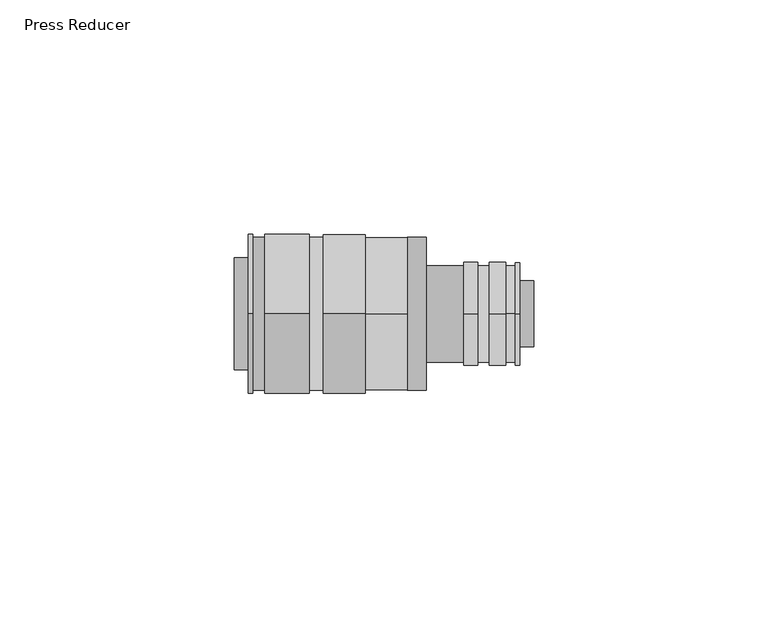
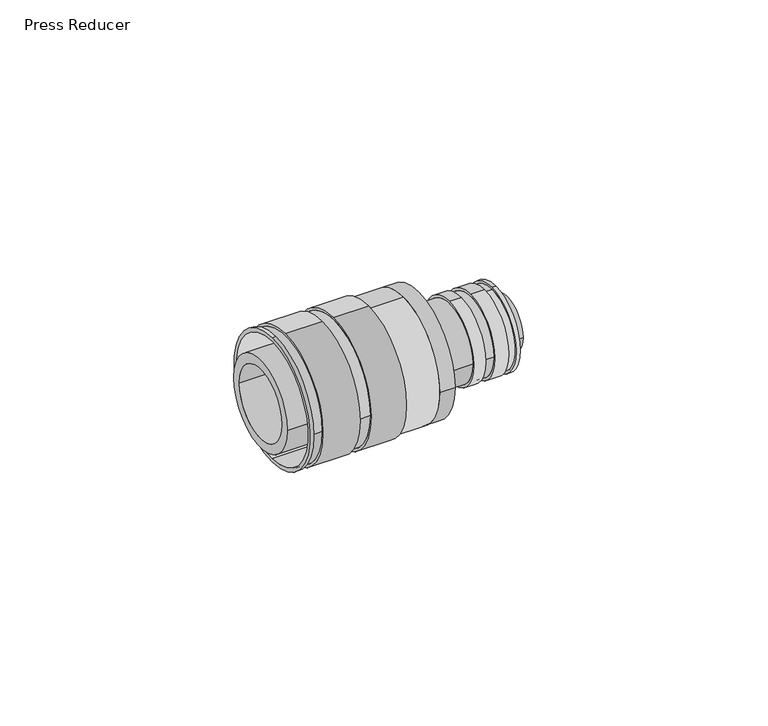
"""IFC4 building model written with IfcOpenShell, lengths in millimetres: pipe fitting geometry, Press Reducer : Superpipe Press Reducer."""

from ifc_helpers import new_model, si_unit, point, frame, frame_2d, origin, place, context, project, spatial, polyline, circle_curve, trimmed, segment, composite_curve, outline, extrude, source, transform, mapped, element, save
from ifc_brep_helpers import plane_surface, cylinder_surface, revolved_surface, advanced_brep


def press_reducer_061486a4(model_context):
    return source(origin(), model_context, "Body", "SolidModel", [
        advanced_brep(
        [(3.0, 0.0, -17.0), (3.0, 0.0, 17.0), (3.0, 0.0, -16.0), (3.0, 0.0, 16.0), (37.0, 0.0, -16.3), (37.0, 0.0, 16.3), (37.0, 0.0, -16.0), (37.0, 0.0, 16.0), (4.0, 0.0, -17.0), (4.0, -17.0, 0.0), (4.0, 0.0, 17.0), (28.0, 0.0, -17.0), (28.0, 0.0, 17.0), (19.0, 0.0, 17.0), (19.0, -17.0, 0.0), (19.0, 0.0, -17.0), (16.0, 0.0, -17.0), (16.0, -17.0, 0.0), (16.0, 0.0, 17.0), (6.5, 0.0, 17.0), (6.5, -17.0, 0.0), (6.5, 0.0, -17.0), (4.0, 17.0, 0.0), (19.0, 17.0, 0.0), (16.0, 17.0, 0.0), (6.5, 17.0, 0.0), (28.0, 0.0, -16.3), (28.0, 0.0, 16.3), (16.0, 16.3, 0.0), (16.0, -16.3, 0.0), (19.0, 16.3, 0.0), (19.0, -16.3, 0.0), (6.5, -16.3, 0.0), (6.5, 16.3, 0.0), (4.0, -16.3, 0.0), (4.0, 16.3, 0.0)],
        [
            (0, 1, circle_curve(frame((3.0, 0.0, 0.0), z_axis=(-1.0, 0.0, 0.0), x_axis=(0.0, 0.0, 1.0)), 17.0)),
            (1, 0, circle_curve(frame((3.0, 0.0, 0.0), z_axis=(-1.0, 0.0, 0.0), x_axis=(0.0, 0.0, 1.0)), 17.0)),
            (2, 3, circle_curve(frame((3.0, 0.0, 0.0), z_axis=(1.0, 0.0, 0.0), x_axis=(0.0, 0.0, 1.0)), 16.0)),
            (3, 2, circle_curve(frame((3.0, 0.0, 0.0), z_axis=(1.0, 0.0, 0.0), x_axis=(0.0, 0.0, 1.0)), 16.0)),
            (4, 5, circle_curve(frame((37.0, 0.0, 0.0), z_axis=(1.0, 0.0, 0.0), x_axis=(0.0, 0.0, 1.0)), 16.3)),
            (5, 4, circle_curve(frame((37.0, 0.0, 0.0), z_axis=(1.0, 0.0, 0.0), x_axis=(0.0, 0.0, 1.0)), 16.3)),
            (6, 7, circle_curve(frame((37.0, 0.0, 0.0), z_axis=(-1.0, 0.0, 0.0), x_axis=(0.0, 0.0, 1.0)), 16.0)),
            (7, 6, circle_curve(frame((37.0, 0.0, 0.0), z_axis=(-1.0, 0.0, 0.0), x_axis=(0.0, 0.0, 1.0)), 16.0)),
            (0, 8),
            (8, 9, circle_curve(frame((4.0, 0.0, 0.0), z_axis=(-1.0, 0.0, 0.0), x_axis=(0.0, 0.0, 1.0)), 17.0)),
            (9, 10, circle_curve(frame((4.0, 0.0, 0.0), z_axis=(-1.0, 0.0, 0.0), x_axis=(0.0, 0.0, 1.0)), 17.0)),
            (10, 1),
            (11, 12, circle_curve(frame((28.0, 0.0, 0.0), z_axis=(-1.0, 0.0, 0.0), x_axis=(0.0, 0.0, 1.0)), 17.0)),
            (12, 13),
            (13, 14, circle_curve(frame((19.0, 0.0, 0.0), z_axis=(1.0, 0.0, 0.0), x_axis=(0.0, 0.0, 1.0)), 17.0)),
            (14, 15, circle_curve(frame((19.0, 0.0, 0.0), z_axis=(1.0, 0.0, 0.0), x_axis=(0.0, 0.0, 1.0)), 17.0)),
            (15, 11),
            (16, 17, circle_curve(frame((16.0, 0.0, 0.0), z_axis=(-1.0, 0.0, 0.0), x_axis=(0.0, 0.0, 1.0)), 17.0)),
            (17, 18, circle_curve(frame((16.0, 0.0, 0.0), z_axis=(-1.0, 0.0, 0.0), x_axis=(0.0, 0.0, 1.0)), 17.0)),
            (18, 19),
            (19, 20, circle_curve(frame((6.5, 0.0, 0.0), z_axis=(1.0, 0.0, 0.0), x_axis=(0.0, 0.0, 1.0)), 17.0)),
            (20, 21, circle_curve(frame((6.5, 0.0, 0.0), z_axis=(1.0, 0.0, 0.0), x_axis=(0.0, 0.0, 1.0)), 17.0)),
            (21, 16),
            (10, 22, circle_curve(frame((4.0, 0.0, 0.0), z_axis=(-1.0, 0.0, 0.0), x_axis=(0.0, 0.0, 1.0)), 17.0)),
            (22, 8, circle_curve(frame((4.0, 0.0, 0.0), z_axis=(-1.0, 0.0, 0.0), x_axis=(0.0, 0.0, 1.0)), 17.0)),
            (12, 11, circle_curve(frame((28.0, 0.0, 0.0), z_axis=(-1.0, 0.0, 0.0), x_axis=(0.0, 0.0, 1.0)), 17.0)),
            (15, 23, circle_curve(frame((19.0, 0.0, 0.0), z_axis=(1.0, 0.0, 0.0), x_axis=(0.0, 0.0, 1.0)), 17.0)),
            (23, 13, circle_curve(frame((19.0, 0.0, 0.0), z_axis=(1.0, 0.0, 0.0), x_axis=(0.0, 0.0, 1.0)), 17.0)),
            (24, 16, circle_curve(frame((16.0, 0.0, 0.0), z_axis=(-1.0, 0.0, 0.0), x_axis=(0.0, 0.0, 1.0)), 17.0)),
            (21, 25, circle_curve(frame((6.5, 0.0, 0.0), z_axis=(1.0, 0.0, 0.0), x_axis=(0.0, 0.0, 1.0)), 17.0)),
            (25, 19, circle_curve(frame((6.5, 0.0, 0.0), z_axis=(1.0, 0.0, 0.0), x_axis=(0.0, 0.0, 1.0)), 17.0)),
            (18, 24, circle_curve(frame((16.0, 0.0, 0.0), z_axis=(-1.0, 0.0, 0.0), x_axis=(0.0, 0.0, 1.0)), 17.0)),
            (2, 6),
            (7, 3),
            (26, 27, circle_curve(frame((28.0, 0.0, 0.0), z_axis=(-1.0, 0.0, 0.0), x_axis=(0.0, 0.0, 1.0)), 16.3)),
            (27, 26, circle_curve(frame((28.0, 0.0, 0.0), z_axis=(-1.0, 0.0, 0.0), x_axis=(0.0, 0.0, 1.0)), 16.3)),
            (27, 5),
            (4, 26),
            (28, 29, circle_curve(frame((16.0, 0.0, 0.0), z_axis=(-1.0, 0.0, 0.0), x_axis=(0.0, -1.0, 0.0)), 16.3)),
            (29, 28, circle_curve(frame((16.0, 0.0, 0.0), z_axis=(-1.0, 0.0, 0.0), x_axis=(0.0, -1.0, 0.0)), 16.3)),
            (30, 31, circle_curve(frame((19.0, 0.0, 0.0), z_axis=(1.0, 0.0, 0.0), x_axis=(0.0, -1.0, 0.0)), 16.3)),
            (31, 30, circle_curve(frame((19.0, 0.0, 0.0), z_axis=(1.0, 0.0, 0.0), x_axis=(0.0, -1.0, 0.0)), 16.3)),
            (29, 31),
            (30, 28),
            (32, 33, circle_curve(frame((6.5, 0.0, 0.0), z_axis=(1.0, 0.0, 0.0), x_axis=(0.0, 1.0, 0.0)), 16.3)),
            (33, 32, circle_curve(frame((6.5, 0.0, 0.0), z_axis=(1.0, 0.0, 0.0), x_axis=(0.0, 1.0, 0.0)), 16.3)),
            (34, 35, circle_curve(frame((4.0, 0.0, 0.0), z_axis=(-1.0, 0.0, 0.0), x_axis=(0.0, 1.0, 0.0)), 16.3)),
            (35, 34, circle_curve(frame((4.0, 0.0, 0.0), z_axis=(-1.0, 0.0, 0.0), x_axis=(0.0, 1.0, 0.0)), 16.3)),
            (33, 35),
            (34, 32),
        ],
        [
            plane_surface(frame((3.0, 0.0, 17.0), z_axis=(-1.0, 0.0, 0.0), x_axis=(0.0, 1.0, 0.0))),
            plane_surface(frame((37.0, 0.0, 17.0), z_axis=(1.0, 0.0, 0.0), x_axis=(0.0, -1.0, 0.0))),
            cylinder_surface(frame((37.0, 0.0, 0.0), z_axis=(-1.0, 0.0, 0.0), x_axis=(0.0, 0.0, 1.0)), 17.0),
            revolved_surface(polyline([(37.0, 0.0, 16.0), (3.0, 0.0, 16.0)]), (37.0, 0.0, 0.0), (1.0, 0.0, 0.0)),
            plane_surface(frame((28.0, 0.0, 17.0), z_axis=(1.0, 0.0, 0.0), x_axis=(0.0, 1.0, 0.0))),
            cylinder_surface(frame((37.0, 0.0, 0.0), z_axis=(1.0, 0.0, 0.0), x_axis=(0.0, 0.0, 1.0)), 16.3),
            plane_surface(frame((16.0, -17.0, 0.0), z_axis=(1.0, 0.0, 0.0), x_axis=(0.0, 0.0, 1.0))),
            plane_surface(frame((19.0, -17.0, 0.0), z_axis=(-1.0, 0.0, 0.0), x_axis=(0.0, 0.0, -1.0))),
            cylinder_surface(frame((19.0, 0.0, 0.0), z_axis=(1.0, 0.0, 0.0), x_axis=(0.0, -1.0, 0.0)), 16.3),
            plane_surface(frame((6.5, 17.0, 0.0), z_axis=(-1.0, 0.0, 0.0), x_axis=(0.0, 0.0, 1.0))),
            plane_surface(frame((4.0, 17.0, 0.0), z_axis=(1.0, 0.0, 0.0), x_axis=(0.0, 0.0, -1.0))),
            cylinder_surface(frame((3.0, 0.0, 0.0), z_axis=(-1.0, 0.0, 0.0), x_axis=(0.0, 1.0, 0.0)), 16.3),
        ],
        [
            (0, [[1, 2], [3, 4]]),
            (1, [[5, 6], [7, 8]]),
            (2, [[-1, 9, 10, 11, 12]]),
            (2, [[13, 14, 15, 16, 17]]),
            (2, [[18, 19, 20, 21, 22, 23]]),
            (2, [[-2, -12, 24, 25, -9]]),
            (2, [[26, -17, 27, 28, -14]]),
            (2, [[29, -23, 30, 31, -20, 32]]),
            (3, [[-3, 33, -8, 34]]),
            (3, [[-4, -34, -7, -33]]),
            (4, [[-13, -26], [35, 36]]),
            (5, [[-36, 37, -5, 38]]),
            (5, [[-35, -38, -6, -37]]),
            (6, [[-18, -29, -32, -19], [39, 40]]),
            (7, [[-16, -15, -28, -27], [41, 42]]),
            (8, [[-40, 43, -41, 44]]),
            (8, [[-39, -44, -42, -43]]),
            (9, [[-22, -21, -31, -30], [45, 46]]),
            (10, [[-10, -25, -24, -11], [47, 48]]),
            (11, [[-46, 49, -47, 50]]),
            (11, [[-45, -50, -48, -49]]),
        ],
    ),
        advanced_brep(
        [(61.0, 0.0, -11.0), (61.0, 0.0, 11.0), (61.0, 0.0, -10.0), (61.0, 0.0, 10.0), (41.0, -10.3, 0.0), (41.0, 10.3, 0.0), (41.0, 0.0, -10.0), (41.0, 0.0, 10.0), (60.0, 0.0, -11.0), (60.0, 0.0, 11.0), (49.0, 0.0, -11.0), (49.0, 11.0, 0.0), (49.0, 0.0, 11.0), (52.0, 0.0, 11.0), (52.0, 11.0, 0.0), (52.0, 0.0, -11.0), (58.0, 0.0, 11.0), (58.0, 0.0, -11.0), (54.5, 0.0, -11.0), (54.5, 11.0, 0.0), (54.5, 0.0, 11.0), (49.0, -11.0, 0.0), (52.0, -11.0, 0.0), (54.5, -11.0, 0.0), (49.0, -10.3, 0.0), (49.0, 10.3, 0.0), (58.0, 0.0, 10.3), (58.0, 0.0, -10.3), (60.0, 0.0, 10.3), (60.0, 0.0, -10.3), (52.0, 10.3, 0.0), (52.0, -10.3, 0.0), (54.5, 10.3, 0.0), (54.5, -10.3, 0.0)],
        [
            (0, 1, circle_curve(frame((61.0, 0.0, 0.0), z_axis=(1.0, 0.0, 0.0), x_axis=(0.0, 0.0, 1.0)), 11.0)),
            (1, 0, circle_curve(frame((61.0, 0.0, 0.0), z_axis=(1.0, 0.0, 0.0), x_axis=(0.0, 0.0, 1.0)), 11.0)),
            (2, 3, circle_curve(frame((61.0, 0.0, 0.0), z_axis=(-1.0, 0.0, 0.0), x_axis=(0.0, 0.0, 1.0)), 10.0)),
            (3, 2, circle_curve(frame((61.0, 0.0, 0.0), z_axis=(-1.0, 0.0, 0.0), x_axis=(0.0, 0.0, 1.0)), 10.0)),
            (4, 5, circle_curve(frame((41.0, 0.0, 0.0), z_axis=(-1.0, 0.0, 0.0), x_axis=(0.0, 1.0, 0.0)), 10.3)),
            (5, 4, circle_curve(frame((41.0, 0.0, 0.0), z_axis=(-1.0, 0.0, 0.0), x_axis=(0.0, 1.0, 0.0)), 10.3)),
            (6, 7, circle_curve(frame((41.0, 0.0, 0.0), z_axis=(1.0, 0.0, 0.0), x_axis=(0.0, 0.0, 1.0)), 10.0)),
            (7, 6, circle_curve(frame((41.0, 0.0, 0.0), z_axis=(1.0, 0.0, 0.0), x_axis=(0.0, 0.0, 1.0)), 10.0)),
            (0, 8),
            (8, 9, circle_curve(frame((60.0, 0.0, 0.0), z_axis=(1.0, 0.0, 0.0), x_axis=(0.0, 0.0, 1.0)), 11.0)),
            (9, 1),
            (10, 11, circle_curve(frame((49.0, 0.0, 0.0), z_axis=(1.0, 0.0, 0.0), x_axis=(0.0, 0.0, 1.0)), 11.0)),
            (11, 12, circle_curve(frame((49.0, 0.0, 0.0), z_axis=(1.0, 0.0, 0.0), x_axis=(0.0, 0.0, 1.0)), 11.0)),
            (12, 13),
            (13, 14, circle_curve(frame((52.0, 0.0, 0.0), z_axis=(-1.0, 0.0, 0.0), x_axis=(0.0, 0.0, 1.0)), 11.0)),
            (14, 15, circle_curve(frame((52.0, 0.0, 0.0), z_axis=(-1.0, 0.0, 0.0), x_axis=(0.0, 0.0, 1.0)), 11.0)),
            (15, 10),
            (16, 17, circle_curve(frame((58.0, 0.0, 0.0), z_axis=(-1.0, 0.0, 0.0), x_axis=(0.0, 0.0, 1.0)), 11.0)),
            (17, 18),
            (18, 19, circle_curve(frame((54.5, 0.0, 0.0), z_axis=(1.0, 0.0, 0.0), x_axis=(0.0, 0.0, 1.0)), 11.0)),
            (19, 20, circle_curve(frame((54.5, 0.0, 0.0), z_axis=(1.0, 0.0, 0.0), x_axis=(0.0, 0.0, 1.0)), 11.0)),
            (20, 16),
            (9, 8, circle_curve(frame((60.0, 0.0, 0.0), z_axis=(1.0, 0.0, 0.0), x_axis=(0.0, 0.0, 1.0)), 11.0)),
            (21, 10, circle_curve(frame((49.0, 0.0, 0.0), z_axis=(1.0, 0.0, 0.0), x_axis=(0.0, 0.0, 1.0)), 11.0)),
            (15, 22, circle_curve(frame((52.0, 0.0, 0.0), z_axis=(-1.0, 0.0, 0.0), x_axis=(0.0, 0.0, 1.0)), 11.0)),
            (22, 13, circle_curve(frame((52.0, 0.0, 0.0), z_axis=(-1.0, 0.0, 0.0), x_axis=(0.0, 0.0, 1.0)), 11.0)),
            (12, 21, circle_curve(frame((49.0, 0.0, 0.0), z_axis=(1.0, 0.0, 0.0), x_axis=(0.0, 0.0, 1.0)), 11.0)),
            (17, 16, circle_curve(frame((58.0, 0.0, 0.0), z_axis=(-1.0, 0.0, 0.0), x_axis=(0.0, 0.0, 1.0)), 11.0)),
            (20, 23, circle_curve(frame((54.5, 0.0, 0.0), z_axis=(1.0, 0.0, 0.0), x_axis=(0.0, 0.0, 1.0)), 11.0)),
            (23, 18, circle_curve(frame((54.5, 0.0, 0.0), z_axis=(1.0, 0.0, 0.0), x_axis=(0.0, 0.0, 1.0)), 11.0)),
            (2, 6),
            (7, 3),
            (24, 25, circle_curve(frame((49.0, 0.0, 0.0), z_axis=(1.0, 0.0, 0.0), x_axis=(0.0, 1.0, 0.0)), 10.3)),
            (25, 24, circle_curve(frame((49.0, 0.0, 0.0), z_axis=(1.0, 0.0, 0.0), x_axis=(0.0, 1.0, 0.0)), 10.3)),
            (25, 5),
            (4, 24),
            (26, 27, circle_curve(frame((58.0, 0.0, 0.0), z_axis=(-1.0, 0.0, 0.0), x_axis=(0.0, 0.0, -1.0)), 10.3)),
            (27, 26, circle_curve(frame((58.0, 0.0, 0.0), z_axis=(-1.0, 0.0, 0.0), x_axis=(0.0, 0.0, -1.0)), 10.3)),
            (28, 29, circle_curve(frame((60.0, 0.0, 0.0), z_axis=(1.0, 0.0, 0.0), x_axis=(0.0, 0.0, -1.0)), 10.3)),
            (29, 28, circle_curve(frame((60.0, 0.0, 0.0), z_axis=(1.0, 0.0, 0.0), x_axis=(0.0, 0.0, -1.0)), 10.3)),
            (27, 29),
            (28, 26),
            (30, 31, circle_curve(frame((52.0, 0.0, 0.0), z_axis=(-1.0, 0.0, 0.0), x_axis=(0.0, -1.0, 0.0)), 10.3)),
            (31, 30, circle_curve(frame((52.0, 0.0, 0.0), z_axis=(-1.0, 0.0, 0.0), x_axis=(0.0, -1.0, 0.0)), 10.3)),
            (32, 33, circle_curve(frame((54.5, 0.0, 0.0), z_axis=(1.0, 0.0, 0.0), x_axis=(0.0, -1.0, 0.0)), 10.3)),
            (33, 32, circle_curve(frame((54.5, 0.0, 0.0), z_axis=(1.0, 0.0, 0.0), x_axis=(0.0, -1.0, 0.0)), 10.3)),
            (31, 33),
            (32, 30),
        ],
        [
            plane_surface(frame((61.0, 0.0, 11.0), z_axis=(1.0, 0.0, 0.0), x_axis=(0.0, -1.0, 0.0))),
            plane_surface(frame((41.0, 0.0, 11.0), z_axis=(-1.0, 0.0, 0.0), x_axis=(0.0, 1.0, 0.0))),
            cylinder_surface(frame((41.0, 0.0, 0.0), z_axis=(1.0, 0.0, 0.0), x_axis=(0.0, 0.0, 1.0)), 11.0),
            revolved_surface(polyline([(41.0, 0.0, 10.0), (61.0, 0.0, 10.0)]), (41.0, 0.0, 0.0), (-1.0, 0.0, 0.0)),
            plane_surface(frame((49.0, 11.0, 0.0), z_axis=(-1.0, 0.0, 0.0), x_axis=(0.0, 0.0, 1.0))),
            cylinder_surface(frame((41.0, 0.0, 0.0), z_axis=(-1.0, 0.0, 0.0), x_axis=(0.0, 1.0, 0.0)), 10.3),
            plane_surface(frame((58.0, 0.0, -11.0), z_axis=(1.0, 0.0, 0.0), x_axis=(0.0, -1.0, 0.0))),
            plane_surface(frame((60.0, 0.0, -11.0), z_axis=(-1.0, 0.0, 0.0), x_axis=(0.0, 1.0, 0.0))),
            cylinder_surface(frame((61.0, 0.0, 0.0), z_axis=(1.0, 0.0, 0.0), x_axis=(0.0, 0.0, -1.0)), 10.3),
            plane_surface(frame((52.0, -11.0, 0.0), z_axis=(1.0, 0.0, 0.0), x_axis=(0.0, 0.0, 1.0))),
            plane_surface(frame((54.5, -11.0, 0.0), z_axis=(-1.0, 0.0, 0.0), x_axis=(0.0, 0.0, -1.0))),
            cylinder_surface(frame((52.0, 0.0, 0.0), z_axis=(1.0, 0.0, 0.0), x_axis=(0.0, -1.0, 0.0)), 10.3),
        ],
        [
            (0, [[1, 2], [3, 4]]),
            (1, [[5, 6], [7, 8]]),
            (2, [[-1, 9, 10, 11]]),
            (2, [[12, 13, 14, 15, 16, 17]]),
            (2, [[18, 19, 20, 21, 22]]),
            (2, [[-2, -11, 23, -9]]),
            (2, [[24, -17, 25, 26, -14, 27]]),
            (2, [[28, -22, 29, 30, -19]]),
            (3, [[-3, 31, -8, 32]]),
            (3, [[-4, -32, -7, -31]]),
            (4, [[-12, -24, -27, -13], [33, 34]]),
            (5, [[-34, 35, -5, 36]]),
            (5, [[-33, -36, -6, -35]]),
            (6, [[-18, -28], [37, 38]]),
            (7, [[-10, -23], [39, 40]]),
            (8, [[-38, 41, -39, 42]]),
            (8, [[-37, -42, -40, -41]]),
            (9, [[-16, -15, -26, -25], [43, 44]]),
            (10, [[-20, -30, -29, -21], [45, 46]]),
            (11, [[-44, 47, -45, 48]]),
            (11, [[-43, -48, -46, -47]]),
        ],
    ),
        extrude(outline(composite_curve([segment(trimmed(circle_curve(frame_2d((-0.000673, 0.0)), 7.0), [point((-7.000673, 0.0))], [point((6.999327, 0.0))], False, "CARTESIAN"), True, "CONTINUOUS"), segment(trimmed(circle_curve(frame_2d((-0.000673, 0.0)), 7.0), [point((6.999327, 0.0))], [point((-7.000673, 0.0))], False, "CARTESIAN"), True, "CONTINUOUS")], self_intersect=False), holes=[composite_curve([segment(trimmed(circle_curve(frame_2d((-0.000673, 0.0)), 5.0), [point((4.999327, 0.0))], [point((-5.000673, 0.0))], True, "CARTESIAN"), True, "CONTINUOUS"), segment(trimmed(circle_curve(frame_2d((-0.000673, 0.0)), 5.0), [point((-5.000673, 0.0))], [point((4.999327, 0.0))], True, "CARTESIAN"), True, "CONTINUOUS")], self_intersect=False)]), frame((41.0, 0.0, 0.0), z_axis=(1.0, 0.0, 0.0), x_axis=(0.0, 1.0, 0.0)), (0.0, 0.0, 1.0), 23.0),
        extrude(outline(composite_curve([segment(trimmed(circle_curve(frame_2d((-0.000673, 0.0)), 16.3), [point((-16.300673, 0.0))], [point((16.299327, 0.0))], False, "CARTESIAN"), True, "CONTINUOUS"), segment(trimmed(circle_curve(frame_2d((-0.000673, 0.0)), 16.3), [point((16.299327, 0.0))], [point((-16.300673, 0.0))], False, "CARTESIAN"), True, "CONTINUOUS")], self_intersect=False), holes=[composite_curve([segment(trimmed(circle_curve(frame_2d((-0.000673, 0.0)), 5.0), [point((4.999327, 0.0))], [point((-5.000673, 0.0))], True, "CARTESIAN"), True, "CONTINUOUS"), segment(trimmed(circle_curve(frame_2d((-0.000673, 0.0)), 5.0), [point((-5.000673, 0.0))], [point((4.999327, 0.0))], True, "CARTESIAN"), True, "CONTINUOUS")], self_intersect=False)]), frame((37.0, 0.0, 0.0), z_axis=(1.0, 0.0, 0.0), x_axis=(0.0, 1.0, 0.0)), (0.0, 0.0, 1.0), 4.0),
        extrude(outline(composite_curve([segment(trimmed(circle_curve(frame_2d((-0.000673, 0.0)), 12.0), [point((-12.000673, 0.0))], [point((11.999327, 0.0))], False, "CARTESIAN"), True, "CONTINUOUS"), segment(trimmed(circle_curve(frame_2d((-0.000673, 0.0)), 12.0), [point((11.999327, 0.0))], [point((-12.000673, 0.0))], False, "CARTESIAN"), True, "CONTINUOUS")], self_intersect=False), holes=[composite_curve([segment(trimmed(circle_curve(frame_2d((-0.000673, 0.0)), 9.5), [point((9.499327, 0.0))], [point((-9.500673, 0.0))], True, "CARTESIAN"), True, "CONTINUOUS"), segment(trimmed(circle_curve(frame_2d((-0.000673, 0.0)), 9.5), [point((-9.500673, 0.0))], [point((9.499327, 0.0))], True, "CARTESIAN"), True, "CONTINUOUS")], self_intersect=False)]), frame((0.0, 0.0, 0.0), z_axis=(1.0, 0.0, 0.0), x_axis=(0.0, 1.0, 0.0)), (0.0, 0.0, 1.0), 37.0),
    ])


if __name__ == "__main__":
    model = new_model("IFC4")
    model_context = context("Model", 3, world=origin())
    ifc_project = project(units=[si_unit("LENGTHUNIT", "METRE", prefix="MILLI")], contexts=[model_context])
    site = spatial("IfcSite", under=ifc_project)
    building = spatial("IfcBuilding", under=site)
    placement = place(None, origin())
    press_reducer_shape = press_reducer_061486a4(model_context)
    element("IfcPipeFitting", 1, ObjectType="Press Reducer : Superpipe Press Reducer", at=placement, inside=building, context=model_context, shape_type="MappedRepresentation", body=[
        mapped(press_reducer_shape, transform((0.0, 0.0, 0.0), x_axis=(1.0, 0.0, 0.0), y_axis=(0.0, 1.0, 0.0), z_axis=(0.0, 0.0, 1.0))),
    ])
    save(model, "model.ifc")
